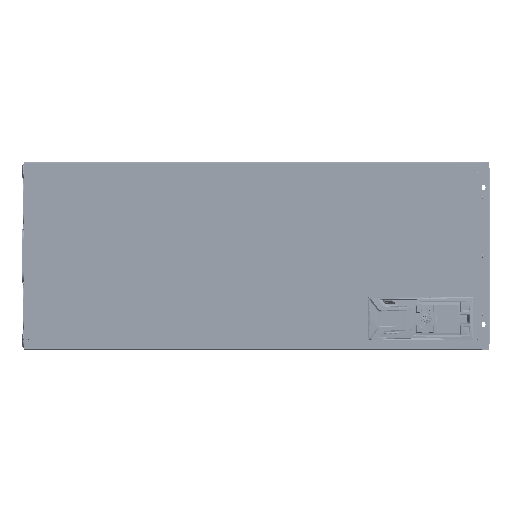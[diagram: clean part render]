
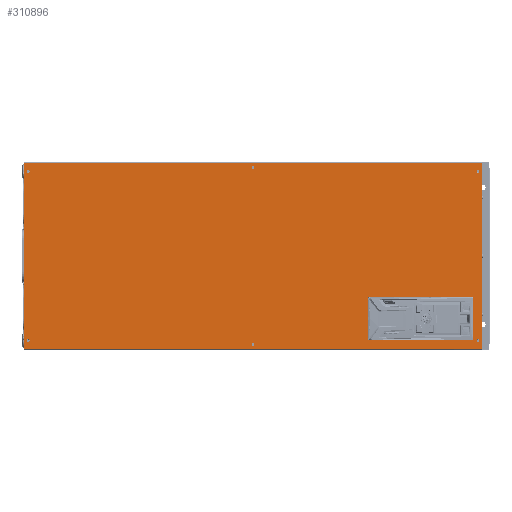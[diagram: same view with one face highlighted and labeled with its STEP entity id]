
A CAD part, left-side view. The second image highlights one B-rep face of the part: STEP entity #310896.
In plain terms, the highlighted planar face has unit normal (-1, 0, 0).
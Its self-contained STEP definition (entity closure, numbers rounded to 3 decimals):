
#309650=DIRECTION('',(0.,0.,1.));
#309651=VECTOR('',#309650,407.6);
#309652=CARTESIAN_POINT('',(-208.5,-348.3,-203.8));
#309653=LINE('',#309652,#309651);
#309693=DIRECTION('',(0.,-1.,0.));
#309694=VECTOR('',#309693,220.);
#309695=CARTESIAN_POINT('',(-208.5,-104.5,-180.));
#309696=LINE('',#309695,#309694);
#309697=DIRECTION('',(0.,0.,1.));
#309698=VECTOR('',#309697,85.);
#309699=CARTESIAN_POINT('',(-208.5,-324.5,-180.));
#309700=LINE('',#309699,#309698);
#309701=DIRECTION('',(0.,1.,0.));
#309702=VECTOR('',#309701,220.);
#309703=CARTESIAN_POINT('',(-208.5,-324.5,-95.));
#309704=LINE('',#309703,#309702);
#309705=DIRECTION('',(0.,0.,-1.));
#309706=VECTOR('',#309705,85.);
#309707=CARTESIAN_POINT('',(-208.5,-104.5,-95.));
#309708=LINE('',#309707,#309706);
#309709=CARTESIAN_POINT('',(-208.5,153.,-194.1));
#309710=DIRECTION('',(-1.,0.,0.));
#309711=DIRECTION('',(0.,0.,1.));
#309712=AXIS2_PLACEMENT_3D('',#309709,#309710,#309711);
#309714=CARTESIAN_POINT('',(-208.5,153.,-194.1));
#309715=DIRECTION('',(-1.,0.,0.));
#309716=DIRECTION('',(0.,0.,-1.));
#309717=AXIS2_PLACEMENT_3D('',#309714,#309715,#309716);
#309719=CARTESIAN_POINT('',(-208.5,-339.5,-185.));
#309720=DIRECTION('',(-1.,0.,0.));
#309721=DIRECTION('',(0.,0.,1.));
#309722=AXIS2_PLACEMENT_3D('',#309719,#309720,#309721);
#309724=CARTESIAN_POINT('',(-208.5,-339.5,-185.));
#309725=DIRECTION('',(-1.,0.,0.));
#309726=DIRECTION('',(0.,0.,-1.));
#309727=AXIS2_PLACEMENT_3D('',#309724,#309725,#309726);
#309729=CARTESIAN_POINT('',(-208.5,645.4,-185.));
#309730=DIRECTION('',(-1.,0.,0.));
#309731=DIRECTION('',(0.,0.,1.));
#309732=AXIS2_PLACEMENT_3D('',#309729,#309730,#309731);
#309734=CARTESIAN_POINT('',(-208.5,645.4,-185.));
#309735=DIRECTION('',(-1.,0.,0.));
#309736=DIRECTION('',(0.,0.,-1.));
#309737=AXIS2_PLACEMENT_3D('',#309734,#309735,#309736);
#309739=CARTESIAN_POINT('',(-208.5,153.,194.1));
#309740=DIRECTION('',(-1.,0.,0.));
#309741=DIRECTION('',(0.,0.,1.));
#309742=AXIS2_PLACEMENT_3D('',#309739,#309740,#309741);
#309744=CARTESIAN_POINT('',(-208.5,153.,194.1));
#309745=DIRECTION('',(-1.,0.,0.));
#309746=DIRECTION('',(0.,0.,-1.));
#309747=AXIS2_PLACEMENT_3D('',#309744,#309745,#309746);
#309749=CARTESIAN_POINT('',(-208.5,-339.5,185.));
#309750=DIRECTION('',(-1.,0.,0.));
#309751=DIRECTION('',(0.,0.,1.));
#309752=AXIS2_PLACEMENT_3D('',#309749,#309750,#309751);
#309754=CARTESIAN_POINT('',(-208.5,-339.5,185.));
#309755=DIRECTION('',(-1.,0.,0.));
#309756=DIRECTION('',(0.,0.,-1.));
#309757=AXIS2_PLACEMENT_3D('',#309754,#309755,#309756);
#309759=CARTESIAN_POINT('',(-208.5,645.4,185.));
#309760=DIRECTION('',(-1.,0.,0.));
#309761=DIRECTION('',(0.,0.,1.));
#309762=AXIS2_PLACEMENT_3D('',#309759,#309760,#309761);
#309764=CARTESIAN_POINT('',(-208.5,645.4,185.));
#309765=DIRECTION('',(-1.,0.,0.));
#309766=DIRECTION('',(0.,0.,-1.));
#309767=AXIS2_PLACEMENT_3D('',#309764,#309765,#309766);
#309780=DIRECTION('',(0.,1.,0.));
#309781=VECTOR('',#309780,1002.6);
#309782=CARTESIAN_POINT('',(-208.5,-348.3,203.8));
#309783=LINE('',#309782,#309781);
#309857=DIRECTION('',(0.,-1.,
0.));
#309858=VECTOR('',#309857,1002.6);
#309859=CARTESIAN_POINT('',(-208.499,654.3,
-203.694));
#309860=LINE('',#309859,#309858);
#309861=CARTESIAN_POINT('',(-208.5,-348.3,-203.8));
#309872=DIRECTION('',(0.,0.,-1.));
#309873=VECTOR('',#309872,407.389);
#309874=CARTESIAN_POINT('',(-208.499,654.3,203.694));
#309875=LINE('',#309874,#309873);
#310004=VERTEX_POINT('',#309861);
#310014=CARTESIAN_POINT('',(-208.499,654.3,
-203.694));
#310015=VERTEX_POINT('',#310014);
#310028=CARTESIAN_POINT('',(-208.499,654.3,203.694));
#310029=VERTEX_POINT('',#310028);
#310039=CARTESIAN_POINT('',(-208.5,-348.3,203.8));
#310040=VERTEX_POINT('',#310039);
#310055=CARTESIAN_POINT('',(-208.5,-104.5,-180.));
#310056=CARTESIAN_POINT('',(-208.5,-324.5,-180.));
#310057=VERTEX_POINT('',#310055);
#310058=VERTEX_POINT('',#310056);
#310059=CARTESIAN_POINT('',(-208.5,-324.5,-95.));
#310060=VERTEX_POINT('',#310059);
#310061=CARTESIAN_POINT('',(-208.5,-104.5,-95.));
#310062=VERTEX_POINT('',#310061);
#310063=CARTESIAN_POINT('',(-208.5,153.,-191.1));
#310064=CARTESIAN_POINT('',(-208.5,153.,-197.1));
#310065=VERTEX_POINT('',#310063);
#310066=VERTEX_POINT('',#310064);
#310067=CARTESIAN_POINT('',(-208.5,-339.5,-182.));
#310068=CARTESIAN_POINT('',(-208.5,-339.5,-188.));
#310069=VERTEX_POINT('',#310067);
#310070=VERTEX_POINT('',#310068);
#310071=CARTESIAN_POINT('',(-208.5,645.4,-182.));
#310072=CARTESIAN_POINT('',(-208.5,645.4,-188.));
#310073=VERTEX_POINT('',#310071);
#310074=VERTEX_POINT('',#310072);
#310075=CARTESIAN_POINT('',(-208.5,153.,197.1));
#310076=CARTESIAN_POINT('',(-208.5,153.,191.1));
#310077=VERTEX_POINT('',#310075);
#310078=VERTEX_POINT('',#310076);
#310079=CARTESIAN_POINT('',(-208.5,-339.5,188.));
#310080=CARTESIAN_POINT('',(-208.5,-339.5,182.));
#310081=VERTEX_POINT('',#310079);
#310082=VERTEX_POINT('',#310080);
#310083=CARTESIAN_POINT('',(-208.5,645.4,188.));
#310084=CARTESIAN_POINT('',(-208.5,645.4,182.));
#310085=VERTEX_POINT('',#310083);
#310086=VERTEX_POINT('',#310084);
#310836=CARTESIAN_POINT('',(-208.5,0.,0.));
#310837=DIRECTION('',(-1.,0.,0.));
#310838=DIRECTION('',(0.,0.,-1.));
#310839=AXIS2_PLACEMENT_3D('',#310836,#310837,#310838);
#310840=PLANE('',#310839);
#310842=ORIENTED_EDGE('',*,*,#310841,.F.);
#310843=ORIENTED_EDGE('',*,*,#310742,.F.);
#310845=ORIENTED_EDGE('',*,*,#310844,.F.);
#310847=ORIENTED_EDGE('',*,*,#310846,.F.);
#310848=EDGE_LOOP('',(#310842,#310843,#310845,#310847));
#310849=FACE_OUTER_BOUND('',#310848,.F.);
#310851=ORIENTED_EDGE('',*,*,#310850,.T.);
#310853=ORIENTED_EDGE('',*,*,#310852,.T.);
#310855=ORIENTED_EDGE('',*,*,#310854,.T.);
#310857=ORIENTED_EDGE('',*,*,#310856,.T.);
#310858=EDGE_LOOP('',(#310851,#310853,#310855,#310857));
#310859=FACE_BOUND('',#310858,.F.);
#310861=ORIENTED_EDGE('',*,*,#310860,.T.);
#310863=ORIENTED_EDGE('',*,*,#310862,.T.);
#310864=EDGE_LOOP('',(#310861,#310863));
#310865=FACE_BOUND('',#310864,.F.);
#310867=ORIENTED_EDGE('',*,*,#310866,.T.);
#310869=ORIENTED_EDGE('',*,*,#310868,.T.);
#310870=EDGE_LOOP('',(#310867,#310869));
#310871=FACE_BOUND('',#310870,.F.);
#310873=ORIENTED_EDGE('',*,*,#310872,.T.);
#310875=ORIENTED_EDGE('',*,*,#310874,.T.);
#310876=EDGE_LOOP('',(#310873,#310875));
#310877=FACE_BOUND('',#310876,.F.);
#310879=ORIENTED_EDGE('',*,*,#310878,.T.);
#310881=ORIENTED_EDGE('',*,*,#310880,.T.);
#310882=EDGE_LOOP('',(#310879,#310881));
#310883=FACE_BOUND('',#310882,.F.);
#310885=ORIENTED_EDGE('',*,*,#310884,.T.);
#310887=ORIENTED_EDGE('',*,*,#310886,.T.);
#310888=EDGE_LOOP('',(#310885,#310887));
#310889=FACE_BOUND('',#310888,.F.);
#310891=ORIENTED_EDGE('',*,*,#310890,.T.);
#310893=ORIENTED_EDGE('',*,*,#310892,.T.);
#310894=EDGE_LOOP('',(#310891,#310893));
#310895=FACE_BOUND('',#310894,.F.);
#309713=CIRCLE('',#309712,3.);
#309718=CIRCLE('',#309717,3.);
#309723=CIRCLE('',#309722,3.);
#309728=CIRCLE('',#309727,3.);
#309733=CIRCLE('',#309732,3.);
#309738=CIRCLE('',#309737,3.);
#309743=CIRCLE('',#309742,3.);
#309748=CIRCLE('',#309747,3.);
#309753=CIRCLE('',#309752,3.);
#309758=CIRCLE('',#309757,3.);
#309763=CIRCLE('',#309762,3.);
#309768=CIRCLE('',#309767,3.);
#310742=EDGE_CURVE('',#310004,#310040,#309653,.T.);
#310841=EDGE_CURVE('',#310040,#310029,#309783,.T.);
#310844=EDGE_CURVE('',#310015,#310004,#309860,.T.);
#310846=EDGE_CURVE('',#310029,#310015,#309875,.T.);
#310850=EDGE_CURVE('',#310057,#310058,#309696,.T.);
#310852=EDGE_CURVE('',#310058,#310060,#309700,.T.);
#310854=EDGE_CURVE('',#310060,#310062,#309704,.T.);
#310856=EDGE_CURVE('',#310062,#310057,#309708,.T.);
#310860=EDGE_CURVE('',#310065,#310066,#309713,.T.);
#310862=EDGE_CURVE('',#310066,#310065,#309718,.T.);
#310866=EDGE_CURVE('',#310069,#310070,#309723,.T.);
#310868=EDGE_CURVE('',#310070,#310069,#309728,.T.);
#310872=EDGE_CURVE('',#310073,#310074,#309733,.T.);
#310874=EDGE_CURVE('',#310074,#310073,#309738,.T.);
#310878=EDGE_CURVE('',#310077,#310078,#309743,.T.);
#310880=EDGE_CURVE('',#310078,#310077,#309748,.T.);
#310884=EDGE_CURVE('',#310081,#310082,#309753,.T.);
#310886=EDGE_CURVE('',#310082,#310081,#309758,.T.);
#310890=EDGE_CURVE('',#310085,#310086,#309763,.T.);
#310892=EDGE_CURVE('',#310086,#310085,#309768,.T.);
#310896=ADVANCED_FACE('',(#310849,#310859,#310865,#310871,#310877,#310883,
#310889,#310895),#310840,.T.);
